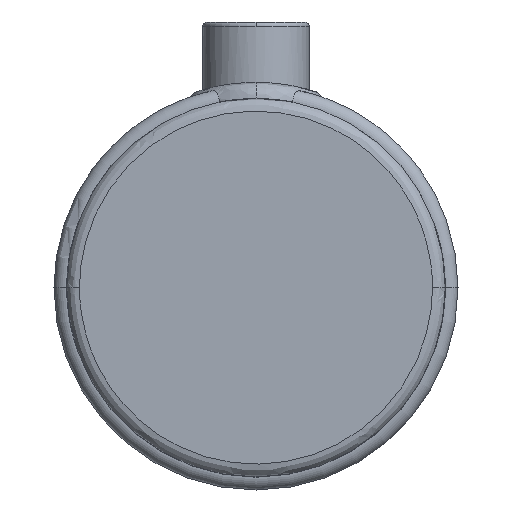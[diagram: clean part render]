
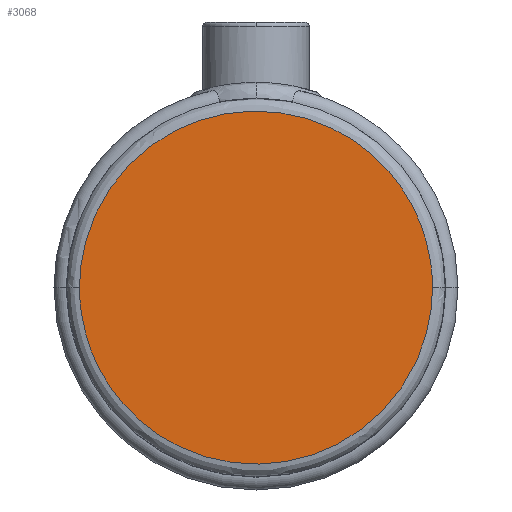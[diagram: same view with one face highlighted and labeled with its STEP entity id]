
A CAD part, top view. The second image highlights one B-rep face of the part: STEP entity #3068.
In plain terms, the highlighted planar face has unit normal (0, 0, 1).
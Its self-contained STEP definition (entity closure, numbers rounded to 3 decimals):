
#786 = DIRECTION ( 'NONE',  ( 0., -1., 0. ) ) ;
#911 = CARTESIAN_POINT ( 'NONE',  ( -41.45, -82.9, 50. ) ) ;
#1649 = CARTESIAN_POINT ( 'NONE',  ( 41.45, 82.9, 50. ) ) ;
#2347 = PLANE ( 'NONE',  #5902 ) ;
#2589 = EDGE_LOOP ( 'NONE', ( #7894, #6774 ) ) ;
#3068 = ADVANCED_FACE ( 'NONE', ( #4962 ), #2347, .T. ) ;
#3150 = CARTESIAN_POINT ( 'NONE',  ( 0., 22.225, 50. ) ) ;
#3208 = CARTESIAN_POINT ( 'NONE',  ( -41.45, 82.9, 50. ) ) ;
#3946 = VERTEX_POINT ( 'NONE', #9845 ) ;
#4099 = CARTESIAN_POINT ( 'NONE',  ( 41.45, -82.9, 50. ) ) ;
#4962 = FACE_OUTER_BOUND ( 'NONE', #2589, .T. ) ;
#5603 = DIRECTION ( 'NONE',  ( 0., 0., 1. ) ) ;
#5902 = AXIS2_PLACEMENT_3D ( 'NONE', #3150, #5603, #786 ) ;
#6577 = CARTESIAN_POINT ( 'NONE',  ( -41.45, 0., 50. ) ) ;
#6774 = ORIENTED_EDGE ( 'NONE', *, *, #10202, .F. ) ;
#6808 = CARTESIAN_POINT ( 'NONE',  ( -41.45, 0., 50. ) ) ;
#7332 = CARTESIAN_POINT ( 'NONE',  ( 41.45, 0., 50. ) ) ;
#7551 = VERTEX_POINT ( 'NONE', #6808 ) ;
#7785 =( BOUNDED_CURVE ( )  B_SPLINE_CURVE ( 3, ( #9803, #4099, #911, #6577 ),
 .UNSPECIFIED., .F., .F. ) 
 B_SPLINE_CURVE_WITH_KNOTS ( ( 4, 4 ),
 ( 0.25, 0.75 ),
 .UNSPECIFIED. ) 
 CURVE ( )  GEOMETRIC_REPRESENTATION_ITEM ( )  RATIONAL_B_SPLINE_CURVE ( ( 1., 0.333, 0.333, 1. ) ) 
 REPRESENTATION_ITEM ( '' )  );
#7894 = ORIENTED_EDGE ( 'NONE', *, *, #10286, .F. ) ;
#8100 = CARTESIAN_POINT ( 'NONE',  ( -41.45, 0., 50. ) ) ;
#9658 =( BOUNDED_CURVE ( )  B_SPLINE_CURVE ( 3, ( #8100, #3208, #1649, #7332 ),
 .UNSPECIFIED., .F., .F. ) 
 B_SPLINE_CURVE_WITH_KNOTS ( ( 4, 4 ),
 ( 0.75, 1.25 ),
 .UNSPECIFIED. ) 
 CURVE ( )  GEOMETRIC_REPRESENTATION_ITEM ( )  RATIONAL_B_SPLINE_CURVE ( ( 1., 0.333, 0.333, 1. ) ) 
 REPRESENTATION_ITEM ( '' )  );
#9803 = CARTESIAN_POINT ( 'NONE',  ( 41.45, 0., 50. ) ) ;
#9845 = CARTESIAN_POINT ( 'NONE',  ( 41.45, 0., 50. ) ) ;
#10202 = EDGE_CURVE ( 'NONE', #7551, #3946, #9658, .T. ) ;
#10286 = EDGE_CURVE ( 'NONE', #3946, #7551, #7785, .T. ) ;
